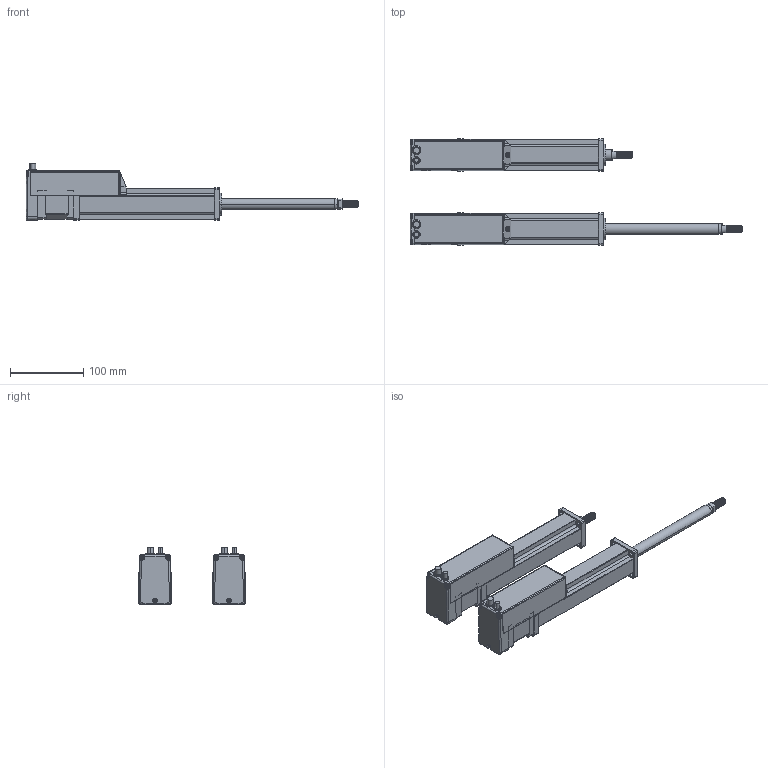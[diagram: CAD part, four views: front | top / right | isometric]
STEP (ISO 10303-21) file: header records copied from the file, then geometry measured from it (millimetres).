
FILE_DESCRIPTION(('STEP AP214'),'1');
FILE_NAME('K:\外形図\3D_DAD2\SCN5\tmp0.step',' ',(' '),(' '),'XStep 1.0',' ',' ');
FILE_SCHEMA(('automotive_design'));
Length unit declared in the file: millimetre
Bounding box: 454.5 x 146.36 x 78 mm (x, y, z)
Volume: 1161326.5 mm3; surface area: 206887.5 mm2
Topology: 40 solids, 40 shells, 996 faces, 2576 edges, 1654 vertices
Faces by surface type: plane 424, cylinder 376, bspline 126, torus 58, sphere 8, cone 4
Entity records: 155228 total; most frequent: CARTESIAN_POINT 122248, ORIENTED_EDGE 5136, DIRECTION 4996, EDGE_CURVE 2568, AXIS2_PLACEMENT_3D 1851, VERTEX_POINT 1654, LINE 1294, VECTOR 1294
